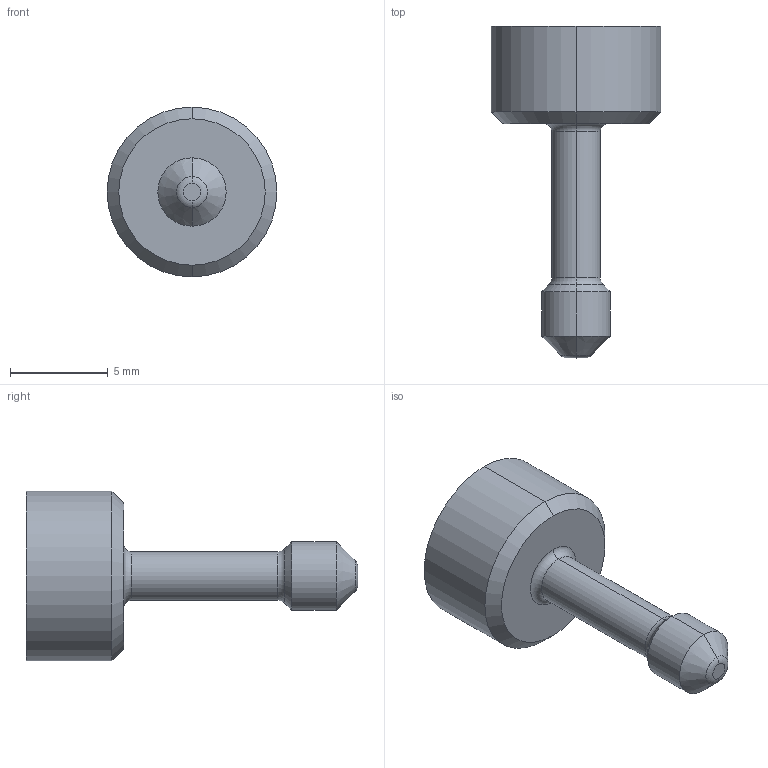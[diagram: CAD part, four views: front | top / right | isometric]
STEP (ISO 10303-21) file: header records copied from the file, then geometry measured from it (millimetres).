
FILE_DESCRIPTION (( 'STEP AP214' ), '1' );
FILE_NAME ('IA 871720.STEP', '2013-10-02T07:43:57', ( '' ), ( '' ), 'SwSTEP 2.0', 'SolidWorks 2011', '' );
FILE_SCHEMA (( 'AUTOMOTIVE_DESIGN' ));
Length unit declared in the file: millimetre
Products named in the file (1): IA 871720
Bounding box: 8.7 x 17 x 8.7 mm (x, y, z)
Volume: 359.5 mm3; surface area: 360.2 mm2
Topology: 1 solids, 1 shells, 54 faces, 127 edges, 80 vertices
Faces by surface type: plane 22, cylinder 20, torus 6, cone 6
Entity records: 1611 total; most frequent: DIRECTION 293, CARTESIAN_POINT 262, ORIENTED_EDGE 254, EDGE_CURVE 127, AXIS2_PLACEMENT_3D 111, VERTEX_POINT 80, LINE 71, VECTOR 71
